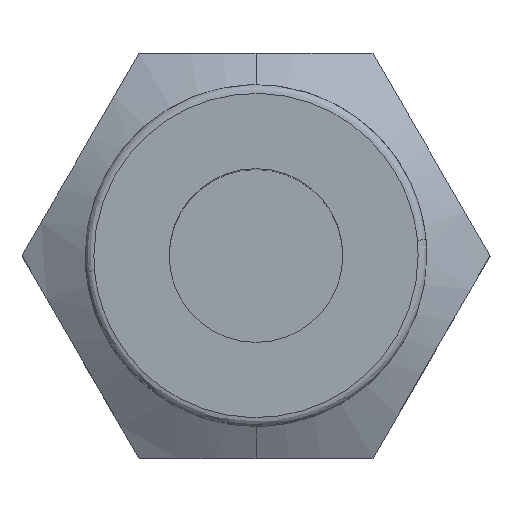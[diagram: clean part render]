
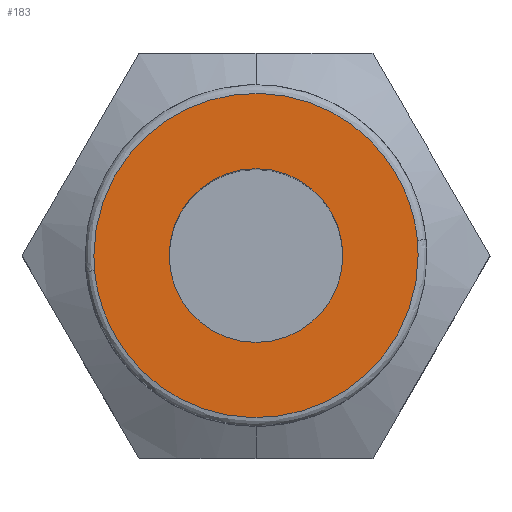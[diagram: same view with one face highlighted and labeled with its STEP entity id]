
A CAD part, top view. The second image highlights one B-rep face of the part: STEP entity #183.
In plain terms, the highlighted planar face has unit normal (0, 0, 1).
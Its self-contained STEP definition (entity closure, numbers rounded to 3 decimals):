
#16 = VERTEX_POINT ( 'NONE', #18 ) ;
#18 = CARTESIAN_POINT ( 'NONE',  ( 5.6, 0., 24.55 ) ) ;
#146 = CARTESIAN_POINT ( 'NONE',  ( 0., 0., 24.55 ) ) ;
#161 = ORIENTED_EDGE ( 'NONE', *, *, #1254, .F. ) ;
#164 = CARTESIAN_POINT ( 'NONE',  ( 4.616, 10.708, 24.55 ) ) ;
#182 = CARTESIAN_POINT ( 'NONE',  ( 3., 0., 24.55 ) ) ;
#183 = ADVANCED_FACE ( '11', ( #1129, #1401 ), #308, .T. ) ;
#206 = DIRECTION ( 'NONE',  ( 1., 0., 0. ) ) ;
#294 = CARTESIAN_POINT ( 'NONE',  ( -5.6, 10.228, 24.55 ) ) ;
#307 = CARTESIAN_POINT ( 'NONE',  ( 5.575, 0.525, 24.55 ) ) ;
#308 = PLANE ( 'NONE',  #1083 ) ;
#320 = ORIENTED_EDGE ( 'NONE', *, *, #592, .F. ) ;
#330 = CARTESIAN_POINT ( 'NONE',  ( -5.6, 0., 24.55 ) ) ;
#335 = CARTESIAN_POINT ( 'NONE',  ( 5.6, -10.228, 24.55 ) ) ;
#383 = CIRCLE ( 'NONE', #606, 3. ) ;
#405 = DIRECTION ( 'NONE',  ( 1., 0., 0. ) ) ;
#415 =( BOUNDED_CURVE ( )  B_SPLINE_CURVE ( 3, ( #994, #1245, #1392, #330 ),
 .UNSPECIFIED., .F., .T. ) 
 B_SPLINE_CURVE_WITH_KNOTS ( ( 4, 4 ),
 ( 0.97, 1. ),
 .UNSPECIFIED. ) 
 CURVE ( )  GEOMETRIC_REPRESENTATION_ITEM ( )  RATIONAL_B_SPLINE_CURVE ( ( 1., 0.999, 0.999, 1. ) ) 
 REPRESENTATION_ITEM ( '' )  );
#471 = DIRECTION ( 'NONE',  ( 1., 0., 0. ) ) ;
#550 = ORIENTED_EDGE ( 'NONE', *, *, #1115, .T. ) ;
#592 = EDGE_CURVE ( 'NONE', #862, #16, #1673, .T. ) ;
#606 = AXIS2_PLACEMENT_3D ( 'NONE', #146, #1452, #405 ) ;
#612 = CARTESIAN_POINT ( 'NONE',  ( -6.1, 6.1, 24.55 ) ) ;
#623 = ORIENTED_EDGE ( 'NONE', *, *, #1349, .T. ) ;
#687 = CARTESIAN_POINT ( 'NONE',  ( 5.6, 0., 24.55 ) ) ;
#713 = EDGE_CURVE ( 'NONE', #1149, #796, #415, .T. ) ;
#723 = CARTESIAN_POINT ( 'NONE',  ( -5.6, 0., 24.55 ) ) ;
#739 = CARTESIAN_POINT ( 'NONE',  ( -3., 0., 24.55 ) ) ;
#780 = EDGE_CURVE ( 'NONE', #16, #1149, #1200, .T. ) ;
#782 =( BOUNDED_CURVE ( )  B_SPLINE_CURVE ( 3, ( #1475, #294, #164, #1220 ),
 .UNSPECIFIED., .F., .T. ) 
 B_SPLINE_CURVE_WITH_KNOTS ( ( 4, 4 ),
 ( 0., 0.97 ),
 .UNSPECIFIED. ) 
 CURVE ( )  GEOMETRIC_REPRESENTATION_ITEM ( )  RATIONAL_B_SPLINE_CURVE ( ( 1., 0.365, 0.365, 1. ) ) 
 REPRESENTATION_ITEM ( '' )  );
#796 = VERTEX_POINT ( 'NONE', #723 ) ;
#805 = VERTEX_POINT ( 'NONE', #739 ) ;
#817 = ORIENTED_EDGE ( 'NONE', *, *, #713, .F. ) ;
#839 = DIRECTION ( 'NONE',  ( 0., 0., -1. ) ) ;
#859 = EDGE_LOOP ( 'NONE', ( #550, #623 ) ) ;
#862 = VERTEX_POINT ( 'NONE', #1477 ) ;
#869 = DIRECTION ( 'NONE',  ( 0., 0., 1. ) ) ;
#897 = AXIS2_PLACEMENT_3D ( 'NONE', #990, #839, #206 ) ;
#943 = CARTESIAN_POINT ( 'NONE',  ( 5.592, 0.351, 24.55 ) ) ;
#977 = EDGE_LOOP ( 'NONE', ( #1065, #320, #161, #817 ) ) ;
#989 = CARTESIAN_POINT ( 'NONE',  ( -4.616, -10.708, 24.55 ) ) ;
#990 = CARTESIAN_POINT ( 'NONE',  ( 0., 0., 24.55 ) ) ;
#994 = CARTESIAN_POINT ( 'NONE',  ( -5.575, -0.525, 24.55 ) ) ;
#1065 = ORIENTED_EDGE ( 'NONE', *, *, #780, .F. ) ;
#1074 = CARTESIAN_POINT ( 'NONE',  ( 5.6, 0.175, 24.55 ) ) ;
#1083 = AXIS2_PLACEMENT_3D ( 'NONE', #612, #869, #471 ) ;
#1115 = EDGE_CURVE ( 'NONE', #1371, #805, #383, .T. ) ;
#1129 = FACE_BOUND ( 'NONE', #859, .T. ) ;
#1149 = VERTEX_POINT ( 'NONE', #1210 ) ;
#1200 =( BOUNDED_CURVE ( )  B_SPLINE_CURVE ( 3, ( #1239, #335, #989, #1607 ),
 .UNSPECIFIED., .F., .T. ) 
 B_SPLINE_CURVE_WITH_KNOTS ( ( 4, 4 ),
 ( 0., 0.97 ),
 .UNSPECIFIED. ) 
 CURVE ( )  GEOMETRIC_REPRESENTATION_ITEM ( )  RATIONAL_B_SPLINE_CURVE ( ( 1., 0.365, 0.365, 1. ) ) 
 REPRESENTATION_ITEM ( '' )  );
#1210 = CARTESIAN_POINT ( 'NONE',  ( -5.575, -0.525, 24.55 ) ) ;
#1220 = CARTESIAN_POINT ( 'NONE',  ( 5.575, 0.525, 24.55 ) ) ;
#1239 = CARTESIAN_POINT ( 'NONE',  ( 5.6, 0., 24.55 ) ) ;
#1245 = CARTESIAN_POINT ( 'NONE',  ( -5.592, -0.351, 24.55 ) ) ;
#1254 = EDGE_CURVE ( 'NONE', #796, #862, #782, .T. ) ;
#1349 = EDGE_CURVE ( 'NONE', #805, #1371, #1535, .T. ) ;
#1371 = VERTEX_POINT ( 'NONE', #182 ) ;
#1392 = CARTESIAN_POINT ( 'NONE',  ( -5.6, -0.175, 24.55 ) ) ;
#1401 = FACE_OUTER_BOUND ( 'NONE', #977, .T. ) ;
#1452 = DIRECTION ( 'NONE',  ( 0., 0., -1. ) ) ;
#1475 = CARTESIAN_POINT ( 'NONE',  ( -5.6, 0., 24.55 ) ) ;
#1477 = CARTESIAN_POINT ( 'NONE',  ( 5.575, 0.525, 24.55 ) ) ;
#1535 = CIRCLE ( 'NONE', #897, 3. ) ;
#1607 = CARTESIAN_POINT ( 'NONE',  ( -5.575, -0.525, 24.55 ) ) ;
#1673 =( BOUNDED_CURVE ( )  B_SPLINE_CURVE ( 3, ( #307, #943, #1074, #687 ),
 .UNSPECIFIED., .F., .T. ) 
 B_SPLINE_CURVE_WITH_KNOTS ( ( 4, 4 ),
 ( 0.97, 1. ),
 .UNSPECIFIED. ) 
 CURVE ( )  GEOMETRIC_REPRESENTATION_ITEM ( )  RATIONAL_B_SPLINE_CURVE ( ( 1., 0.999, 0.999, 1. ) ) 
 REPRESENTATION_ITEM ( '' )  );
